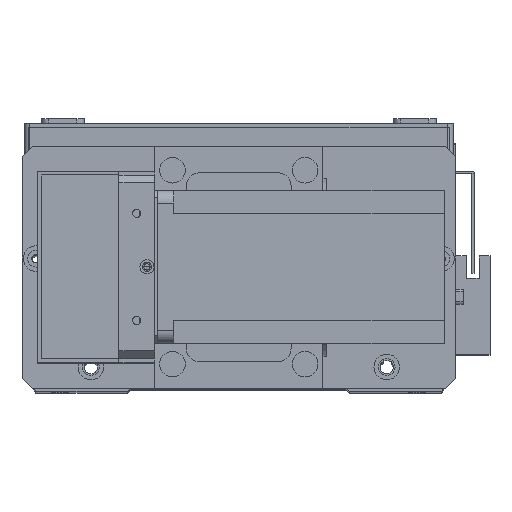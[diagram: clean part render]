
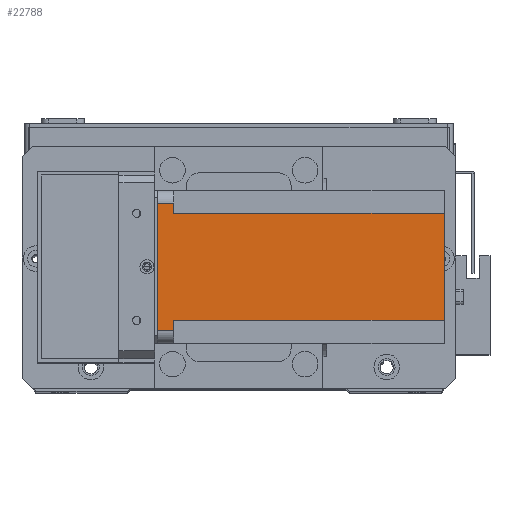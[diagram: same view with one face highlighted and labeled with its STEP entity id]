
A CAD part, top view. The second image highlights one B-rep face of the part: STEP entity #22788.
In plain terms, the highlighted planar face has unit normal (0, 0, 1) as drawn and (-1, 0, 0) by its records, which use the part's own axes.
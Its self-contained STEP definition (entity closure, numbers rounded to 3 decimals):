
#659 = VERTEX_POINT ( 'NONE', #21223 ) ;
#1216 = DIRECTION ( 'NONE',  ( -1., 0., 0. ) ) ;
#1655 = LINE ( 'NONE', #18882, #19932 ) ;
#1869 = EDGE_CURVE ( 'NONE', #21461, #659, #17305, .T. ) ;
#1931 = EDGE_LOOP ( 'NONE', ( #11898, #29706, #23778, #4609, #18619, #5776, #4484, #16984 ) ) ;
#2581 = DIRECTION ( 'NONE',  ( 0., 0., 1. ) ) ;
#2620 = VERTEX_POINT ( 'NONE', #26767 ) ;
#2942 = CARTESIAN_POINT ( 'NONE',  ( 0., 51., -6.5 ) ) ;
#4181 = FACE_OUTER_BOUND ( 'NONE', #1931, .T. ) ;
#4484 = ORIENTED_EDGE ( 'NONE', *, *, #26791, .T. ) ;
#4609 = ORIENTED_EDGE ( 'NONE', *, *, #14759, .T. ) ;
#5126 = LINE ( 'NONE', #20339, #10718 ) ;
#5263 = VECTOR ( 'NONE', #13011, 1000. ) ;
#5776 = ORIENTED_EDGE ( 'NONE', *, *, #20470, .F. ) ;
#5999 = CARTESIAN_POINT ( 'NONE',  ( 0., 5., 0. ) ) ;
#6066 = DIRECTION ( 'NONE',  ( 0., 1., 0. ) ) ;
#6912 = LINE ( 'NONE', #8568, #25214 ) ;
#7094 = DIRECTION ( 'NONE',  ( 0., 0., -1. ) ) ;
#7322 = CARTESIAN_POINT ( 'NONE',  ( 0., 9., -112.5 ) ) ;
#8286 = CARTESIAN_POINT ( 'NONE',  ( 0., 9., -6.5 ) ) ;
#8568 = CARTESIAN_POINT ( 'NONE',  ( 0., 51., -112.5 ) ) ;
#8728 = EDGE_CURVE ( 'NONE', #26380, #17712, #12590, .T. ) ;
#9256 = AXIS2_PLACEMENT_3D ( 'NONE', #15495, #1216, #17884 ) ;
#10596 = CARTESIAN_POINT ( 'NONE',  ( 0., 0., 0. ) ) ;
#10623 = VERTEX_POINT ( 'NONE', #21052 ) ;
#10718 = VECTOR ( 'NONE', #6066, 1000. ) ;
#11898 = ORIENTED_EDGE ( 'NONE', *, *, #23565, .F. ) ;
#12012 = CARTESIAN_POINT ( 'NONE',  ( 0., 51., -112.5 ) ) ;
#12392 = VECTOR ( 'NONE', #24850, 1000. ) ;
#12590 = LINE ( 'NONE', #28824, #30901 ) ;
#12941 = CARTESIAN_POINT ( 'NONE',  ( 0., 55., -112.5 ) ) ;
#13011 = DIRECTION ( 'NONE',  ( 0., -1., 0. ) ) ;
#14184 = VECTOR ( 'NONE', #23908, 1000. ) ;
#14759 = EDGE_CURVE ( 'NONE', #10623, #2620, #25116, .T. ) ;
#15495 = CARTESIAN_POINT ( 'NONE',  ( 0., 0., -112.5 ) ) ;
#16984 = ORIENTED_EDGE ( 'NONE', *, *, #1869, .F. ) ;
#17305 = LINE ( 'NONE', #7322, #22164 ) ;
#17712 = VERTEX_POINT ( 'NONE', #5999 ) ;
#17884 = DIRECTION ( 'NONE',  ( 0., -1., 0. ) ) ;
#18167 = DIRECTION ( 'NONE',  ( 0., 0., 1. ) ) ;
#18619 = ORIENTED_EDGE ( 'NONE', *, *, #19203, .F. ) ;
#18882 = CARTESIAN_POINT ( 'NONE',  ( 0., 0., -112.5 ) ) ;
#19203 = EDGE_CURVE ( 'NONE', #26953, #2620, #5126, .T. ) ;
#19839 = CARTESIAN_POINT ( 'NONE',  ( 0., 5., -6.5 ) ) ;
#19932 = VECTOR ( 'NONE', #28458, 1000. ) ;
#20339 = CARTESIAN_POINT ( 'NONE',  ( 0., 60., -6.5 ) ) ;
#20470 = EDGE_CURVE ( 'NONE', #30378, #26953, #6912, .T. ) ;
#21052 = CARTESIAN_POINT ( 'NONE',  ( 0., 55., 0. ) ) ;
#21223 = CARTESIAN_POINT ( 'NONE',  ( 0., 9., -112.5 ) ) ;
#21310 = LINE ( 'NONE', #28677, #14184 ) ;
#21461 = VERTEX_POINT ( 'NONE', #8286 ) ;
#22164 = VECTOR ( 'NONE', #7094, 1000. ) ;
#22584 = PLANE ( 'NONE',  #9256 ) ;
#22788 = ADVANCED_FACE ( 'NONE', ( #4181 ), #22584, .T. ) ;
#23565 = EDGE_CURVE ( 'NONE', #26380, #21461, #21310, .T. ) ;
#23778 = ORIENTED_EDGE ( 'NONE', *, *, #29837, .F. ) ;
#23908 = DIRECTION ( 'NONE',  ( 0., 1., 0. ) ) ;
#24850 = DIRECTION ( 'NONE',  ( 0., 0., -1. ) ) ;
#25116 = LINE ( 'NONE', #12941, #12392 ) ;
#25214 = VECTOR ( 'NONE', #18167, 1000. ) ;
#26380 = VERTEX_POINT ( 'NONE', #19839 ) ;
#26767 = CARTESIAN_POINT ( 'NONE',  ( 0., 55., -6.5 ) ) ;
#26791 = EDGE_CURVE ( 'NONE', #30378, #659, #1655, .T. ) ;
#26953 = VERTEX_POINT ( 'NONE', #2942 ) ;
#28458 = DIRECTION ( 'NONE',  ( 0., -1., 0. ) ) ;
#28677 = CARTESIAN_POINT ( 'NONE',  ( 0., 0., -6.5 ) ) ;
#28824 = CARTESIAN_POINT ( 'NONE',  ( 0., 5., -112.5 ) ) ;
#29706 = ORIENTED_EDGE ( 'NONE', *, *, #8728, .T. ) ;
#29837 = EDGE_CURVE ( 'NONE', #10623, #17712, #30650, .T. ) ;
#30378 = VERTEX_POINT ( 'NONE', #12012 ) ;
#30650 = LINE ( 'NONE', #10596, #5263 ) ;
#30901 = VECTOR ( 'NONE', #2581, 1000. ) ;
